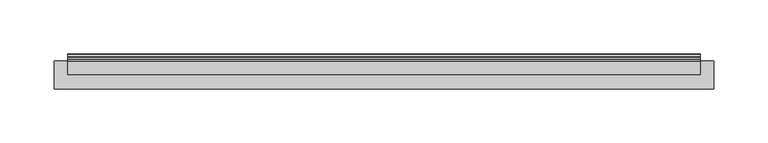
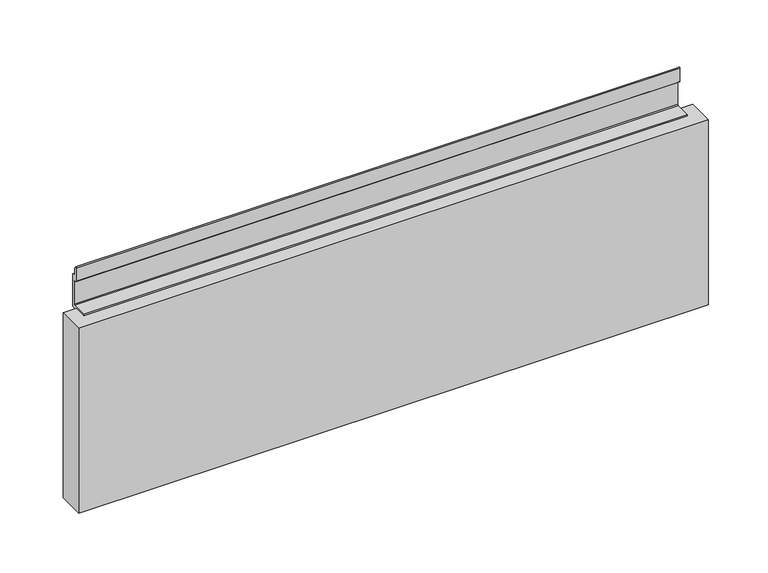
"""IFC4 building model written with IfcOpenShell, lengths in millimetres: furniture geometry, Geiger_GeigerOneCasegoods_WallTileAcceptsShelfandTileAbove : TFL 24Wx 1.25Dx 7.5H."""

from ifc_helpers import new_model, si_unit, point, frame, frame_2d, origin, origin_with_axes, place, context, project, spatial, polyline, circle_curve, trimmed, segment, composite_curve, outline, extrude, source, transform, mapped, element, save


def furniture_e7c824c4(model_context):
    return source(origin(), model_context, "Body", "SweptSolid", [
        extrude(outline(polyline([(609.6, -6.4008), (609.6, -32.4008), (0.0, -32.4008), (0.0, -6.4008), (609.6, -6.4008)])), origin_with_axes(), (0.0, 0.0, 1.0), 189.5),
        extrude(outline(composite_curve([segment(polyline([(-2.8956, 32.2904), (-2.8956, 39.2246), (-3.7084, 40.012), (-5.6134, 40.012), (-6.4008, 40.8248), (-6.4008, 72.524), (-5.1054, 72.524), (-3.5052, 70.9238), (-3.5052, 46.3366), (-2.6924, 45.5238), (-0.8128, 45.5238), (0.0, 44.7364), (0.0, 31.322107)]), True, "CONTINUOUS"), segment(trimmed(circle_curve(frame_2d((-0.7983167, 31.322107)), 0.7983167), [point((0.0, 31.322107))], [point((-1.3628118, 30.7576118))], False, "CARTESIAN"), True, "CONTINUOUS"), segment(polyline([(-1.3628118, 30.7576118), (-2.8956, 32.2904)]), True, "CONTINUOUS")], self_intersect=False)), frame((483.6, 0.0, 0.0), z_axis=(1.0, 0.0, 0.0), x_axis=(0.0, 1.0, 0.0)), (0.0, 0.0, 1.0), 76.0),
        extrude(outline(composite_curve([segment(polyline([(-2.8956, 32.2904), (-2.8956, 39.2246), (-3.7084, 40.012), (-5.6134, 40.012), (-6.4008, 40.8248), (-6.4008, 72.524), (-5.1054, 72.524), (-3.5052, 70.9238), (-3.5052, 46.3366), (-2.6924, 45.5238), (-0.8128, 45.5238), (0.0, 44.7364), (0.0, 31.3203565)]), True, "CONTINUOUS"), segment(trimmed(circle_curve(frame_2d((-0.7975916, 31.3203565)), 0.7975916), [point((0.0, 31.3203565))], [point((-1.361574, 30.756374))], False, "CARTESIAN"), True, "CONTINUOUS"), segment(polyline([(-1.361574, 30.756374), (-2.8956, 32.2904)]), True, "CONTINUOUS")], self_intersect=False)), frame((50.0, 0.0, 0.0), z_axis=(1.0, 0.0, 0.0), x_axis=(0.0, 1.0, 0.0)), (0.0, 0.0, 1.0), 76.0),
        extrude(outline(composite_curve([segment(polyline([(-3.5052, 229.7336), (-3.5052, 222.7994), (-2.7178, 222.012), (-0.8128, 222.012), (0.0, 221.1992), (0.0, 187.8998), (-2.6924, 187.8998), (-3.5052, 187.1124), (-3.5052, 173.3964), (-2.6924, 172.609), (0.0, 172.609), (0.0, 169.688), (-5.6134, 169.688), (-6.4008, 170.5008), (-6.4008, 189.5), (-18.9992, 189.5), (-18.9992, 191.1002), (-3.7084, 191.1002), (-2.8956, 191.8876), (-2.8956, 215.7128), (-3.7084, 216.5002), (-5.6134, 216.5002), (-6.4008, 217.313), (-6.4008, 230.7012527)]), True, "CONTINUOUS"), segment(trimmed(circle_curve(frame_2d((-5.6022181, 230.7012527)), 0.7985819), [point((-6.4008, 230.7012527))], [point((-5.0375354, 231.2659354))], False, "CARTESIAN"), True, "CONTINUOUS"), segment(polyline([(-5.0375354, 231.2659354), (-3.5052, 229.7336)]), True, "CONTINUOUS")], self_intersect=False)), frame((12.5, 0.0, 0.0), z_axis=(1.0, 0.0, 0.0), x_axis=(0.0, 1.0, 0.0)), (0.0, 0.0, 1.0), 584.6),
    ])


if __name__ == "__main__":
    model = new_model("IFC4")
    model_context = context("Model", 3, world=origin())
    ifc_project = project(units=[si_unit("LENGTHUNIT", "METRE", prefix="MILLI")], contexts=[model_context])
    site = spatial("IfcSite", under=ifc_project)
    building = spatial("IfcBuilding", under=site)
    placement = place(None, origin())
    furniture_shape = furniture_e7c824c4(model_context)
    element("IfcFurniture", 1, ObjectType="Geiger_GeigerOneCasegoods_WallTileAcceptsShelfandTileAbove : TFL 24Wx 1.25Dx 7.5H", at=placement, inside=building, context=model_context, shape_type="MappedRepresentation", body=[
        mapped(furniture_shape, transform((0.0, 0.0, 0.0), x_axis=(1.0, 0.0, 0.0), y_axis=(0.0, 1.0, 0.0), z_axis=(0.0, 0.0, 1.0))),
    ])
    save(model, "model.ifc")
